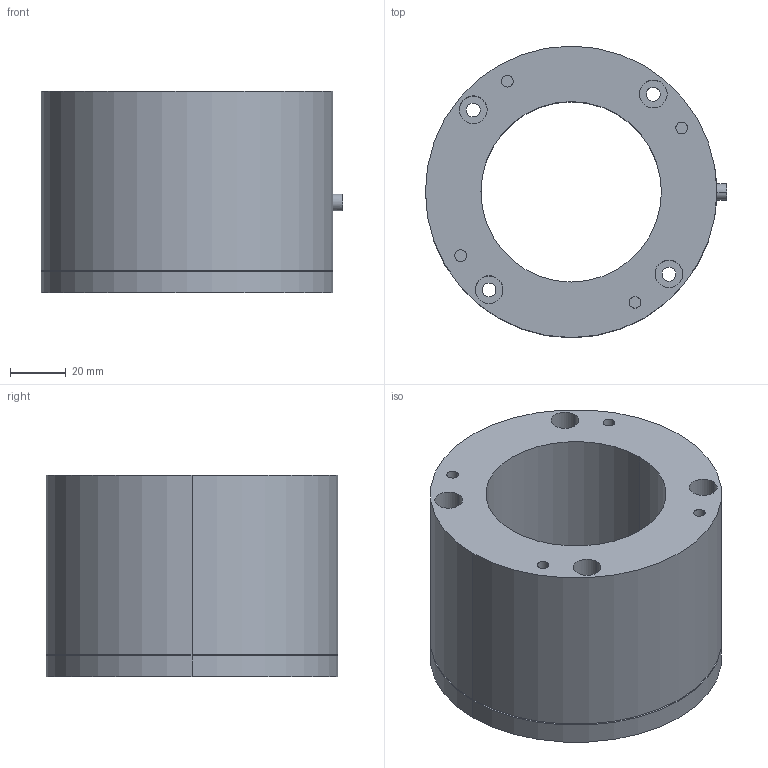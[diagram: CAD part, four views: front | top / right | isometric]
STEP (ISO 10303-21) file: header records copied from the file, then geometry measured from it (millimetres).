
FILE_DESCRIPTION (( 'STEP AP203' ), '1' );
FILE_NAME ('P77A.50K65-B1--21.05.31.STEP', '2021-05-31T07:14:36', ( 'ﾎ｢ﾈ橆ﾃｻｧ' ), ( 'ﾎ｢ﾈ晥ｫﾋｾ' ), 'SwSTEP 2.0', 'SolidWorks 2016', '' );
FILE_SCHEMA (( 'CONFIG_CONTROL_DESIGN' ));
Length unit declared in the file: millimetre
Products named in the file (1): P77A.50K65-B1--21.05.31
Bounding box: 108.5 x 105 x 72.5 mm (x, y, z)
Volume: 365122.7 mm3; surface area: 61826.7 mm2
Topology: 1 solids, 1 shells, 53 faces, 115 edges, 76 vertices
Faces by surface type: cylinder 38, plane 15
Entity records: 1644 total; most frequent: CARTESIAN_POINT 309, DIRECTION 295, ORIENTED_EDGE 230, AXIS2_PLACEMENT_3D 128, EDGE_CURVE 115, VERTEX_POINT 76, EDGE_LOOP 75, CIRCLE 74
